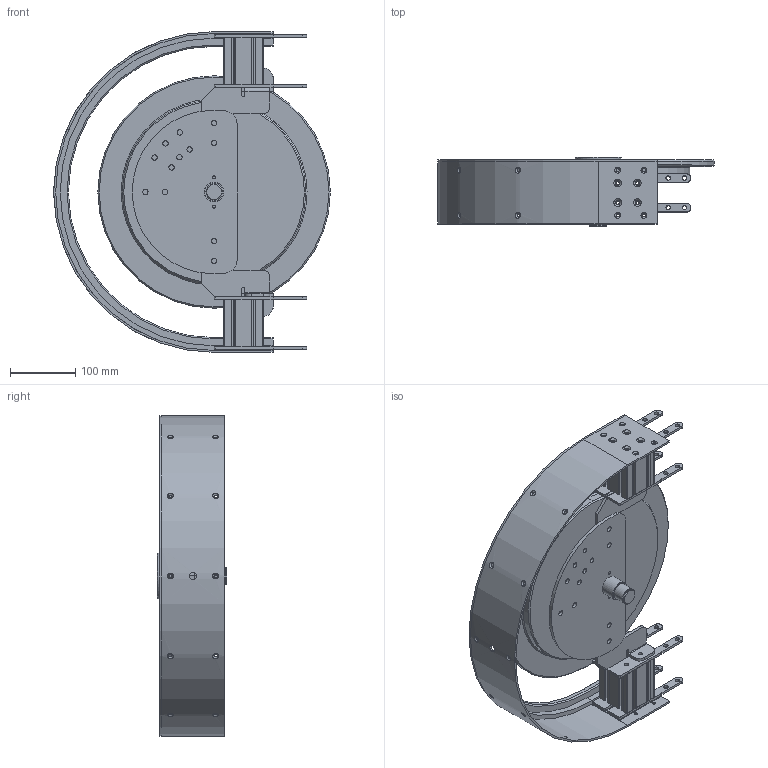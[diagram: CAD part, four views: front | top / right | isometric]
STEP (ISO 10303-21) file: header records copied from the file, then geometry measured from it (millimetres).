
FILE_DESCRIPTION (( 'STEP AP203' ), '1' );
FILE_NAME ('2000.325.618.STEP', '2018-03-12T15:48:14', ( '' ), ( '' ), 'SwSTEP 2.0', 'SolidWorks 2016', '' );
FILE_SCHEMA (( 'CONFIG_CONTROL_DESIGN' ));
Length unit declared in the file: millimetre
Products named in the file (14): 2000.325.509-1; 2000.325.513-3; 2000.325.618; 2000.325.503-1; 2000.325.002_Default<A macchina>; radial ball bearing_68_skf_SKF - 16005 - 14,DE,NC,14_68; 2000.325.510-1; 2000.325.514; 2000.325.423; 2000.325.502-4; 2000.325.414; 2000.325.402; 2000.325.501-2; 2000.325.401
Assembly tree (20 placements, depth 2):
  2000.325.618
    2000.325.501-2
    2000.325.502-4
    2000.325.513-3
    2000.325.402  x2
    2000.325.002_Default<A macchina>  x2
    2000.325.503-1  x2
    2000.325.514
    2000.325.414
    2000.325.423
    2000.325.401  x4
    2000.325.509-1
    2000.325.510-1
    radial ball bearing_68_skf_SKF - 16005 - 14,DE,NC,14_68  x2
Bounding box: 422.5 x 106.15 x 490 mm (x, y, z)
Volume: 2985157.1 mm3; surface area: 845833.1 mm2
Topology: 20 solids, 20 shells, 1268 faces, 3814 edges, 2488 vertices
Faces by surface type: plane 489, cylinder 480, torus 120, cone 81, sphere 56, bspline 42
Entity records: 34972 total; most frequent: CARTESIAN_POINT 12876, ORIENTED_EDGE 4350, DIRECTION 4215, EDGE_CURVE 2175, AXIS2_PLACEMENT_3D 1595, VERTEX_POINT 1417, LINE 1025, VECTOR 1025
